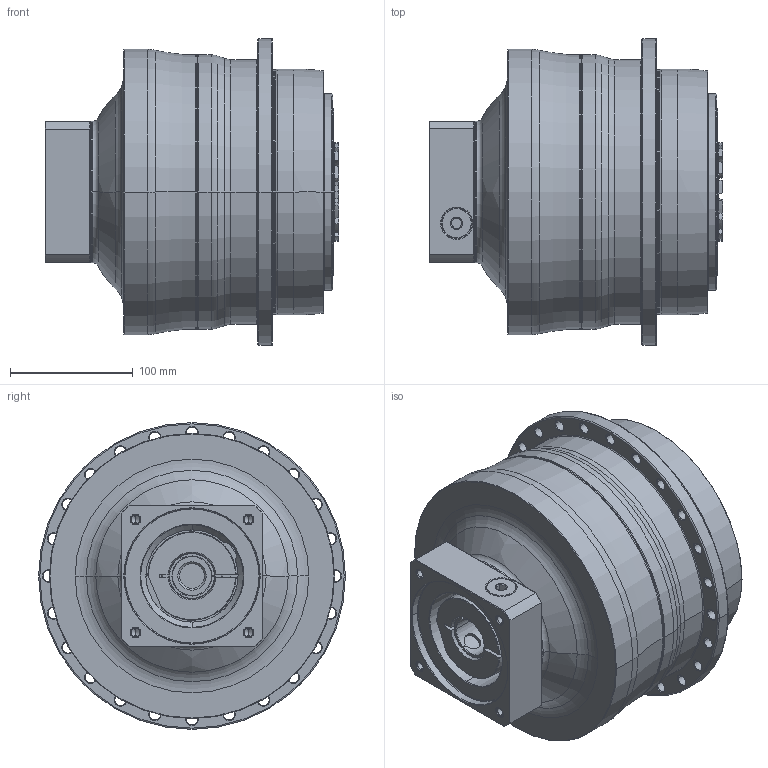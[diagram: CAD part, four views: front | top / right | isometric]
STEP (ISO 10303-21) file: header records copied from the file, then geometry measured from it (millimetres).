
FILE_DESCRIPTION((''),'2;1');
FILE_NAME('APC200_2ST_32-P0409710201_ASM','2018-06-28T',('d01226'),(''),'PRO/ENGINEER BY PARAMETRIC TECHNOLOGY CORPORATION, 2008410','PRO/ENGINEER BY PARAMETRIC TECHNOLOGY CORPORATION, 2008410','');
FILE_SCHEMA(('CONFIG_CONTROL_DESIGN'));
Length unit declared in the file: millimetre
Products named in the file (9): P0278601003; P0359660103; P1317610201; P0503700010; P0912552001; P1211600001; P0409710201; 21711418017; APC200_2ST_32-P0409710201_ASM
Assembly tree (8 placements, depth 2):
  APC200_2ST_32-P0409710201_ASM
    P0278601003
    P0359660103
    P1317610201
    P0503700010
    P0912552001
    P1211600001
    P0409710201
    21711418017
Bounding box: 239.1 x 249.5 x 249.5 mm (x, y, z)
Volume: 6678607.3 mm3; surface area: 533763 mm2
Topology: 9 solids, 19 shells, 673 faces, 1619 edges, 985 vertices
Faces by surface type: cone 221, cylinder 211, plane 120, torus 105, bspline 16
Entity records: 24961 total; most frequent: CARTESIAN_POINT 8847, DIRECTION 3613, ORIENTED_EDGE 3160, EDGE_CURVE 1601, AXIS2_PLACEMENT_3D 1569, VERTEX_POINT 985, CIRCLE 885, EDGE_LOOP 776
